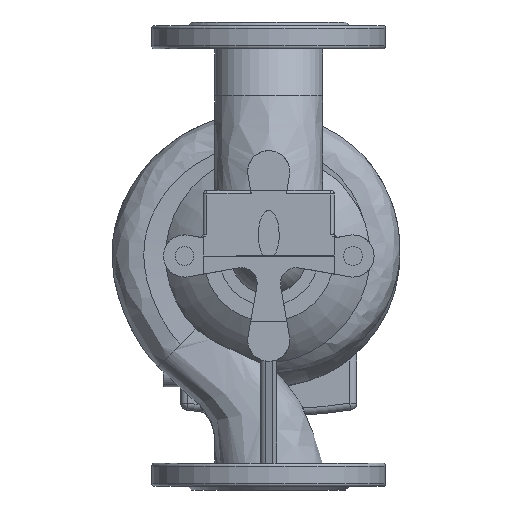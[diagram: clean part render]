
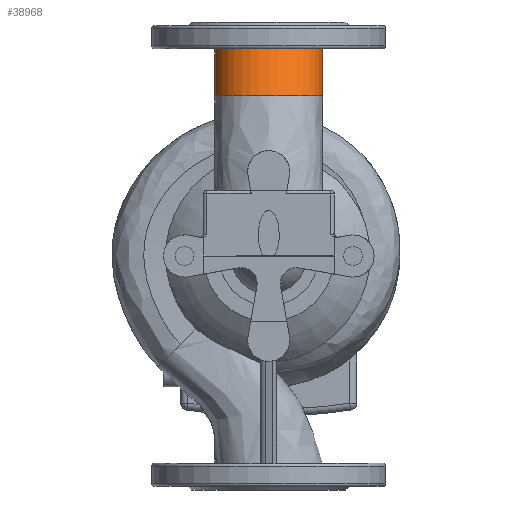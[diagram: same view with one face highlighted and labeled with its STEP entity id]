
A CAD part, front view. The second image highlights one B-rep face of the part: STEP entity #38968.
In plain terms, the highlighted free-form (B-spline) face has degree [3, 1] with [4, 2] control points.
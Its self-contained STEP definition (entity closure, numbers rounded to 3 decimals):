
#54 = VERTEX_POINT ( 'NONE', #26694 ) ;
#302 = B_SPLINE_CURVE_WITH_KNOTS ( 'NONE', 1,
 ( #29298, #13112 ),
 .UNSPECIFIED., .F., .F.,
 ( 2, 2 ),
 ( 0., 1. ),
 .UNSPECIFIED. ) ;
#1317 = CARTESIAN_POINT ( 'NONE',  ( -46., -23.131, 136.935 ) ) ;
#5238 = DIRECTION ( 'NONE',  ( 0., 0., -1. ) ) ;
#7296 = CIRCLE ( 'NONE', #27459, 46. ) ;
#7633 = CARTESIAN_POINT ( 'NONE',  ( 46., -92., 177. ) ) ;
#7777 = CARTESIAN_POINT ( 'NONE',  ( 0., -23.131, 136.935 ) ) ;
#7970 = ORIENTED_EDGE ( 'NONE', *, *, #28614, .F. ) ;
#8060 = CARTESIAN_POINT ( 'NONE',  ( -46., -115.131, 136.935 ) ) ;
#9936 = AXIS2_PLACEMENT_3D ( 'NONE', #21725, #34531, #18181 ) ;
#11364 = DIRECTION ( 'NONE',  ( -1., 0., 0. ) ) ;
#11433 = CARTESIAN_POINT ( 'NONE',  ( 46., 0., 177. ) ) ;
#13112 = CARTESIAN_POINT ( 'NONE',  ( -46., 0., 177. ) ) ;
#13747 = ORIENTED_EDGE ( 'NONE', *, *, #38429, .T. ) ;
#15771 = VERTEX_POINT ( 'NONE', #18589 ) ;
#17363 = EDGE_LOOP ( 'NONE', ( #7970, #13747, #24912, #34760 ) ) ;
#17867 = EDGE_CURVE ( 'NONE', #38371, #54, #302, .T. ) ;
#18181 = DIRECTION ( 'NONE',  ( -1., 0., 0. ) ) ;
#18273 = CARTESIAN_POINT ( 'NONE',  ( -46., -23.131, 136.935 ) ) ;
#18589 = CARTESIAN_POINT ( 'NONE',  ( 46., -23.131, 136.935 ) ) ;
#20294 = FACE_OUTER_BOUND ( 'NONE', #17363, .T. ) ;
#21619 = CARTESIAN_POINT ( 'NONE',  ( 46., 0., 177. ) ) ;
#21725 = CARTESIAN_POINT ( 'NONE',  ( 0., 0., 177. ) ) ;
#24912 = ORIENTED_EDGE ( 'NONE', *, *, #26047, .T. ) ;
#26047 = EDGE_CURVE ( 'NONE', #39657, #54, #30098, .T. ) ;
#26694 = CARTESIAN_POINT ( 'NONE',  ( -46., 0., 177. ) ) ;
#27459 = AXIS2_PLACEMENT_3D ( 'NONE', #7777, #5238, #11364 ) ;
#28500 = CARTESIAN_POINT ( 'NONE',  ( 46., 0., 177. ) ) ;
#28614 = EDGE_CURVE ( 'NONE', #15771, #38371, #7296, .T. ) ;
#28873 =( BOUNDED_SURFACE ( )  B_SPLINE_SURFACE ( 3, 1, ( 
 ( #37068, #11433 ),
 ( #29736, #7633 ),
 ( #8060, #30563 ),
 ( #1317, #40221 ) ),
 .UNSPECIFIED., .F., .F., .F. ) 
 B_SPLINE_SURFACE_WITH_KNOTS ( ( 4, 4 ),
 ( 2, 2 ),
 ( 0.5, 1. ),
 ( 0., 1. ),
 .UNSPECIFIED. ) 
 GEOMETRIC_REPRESENTATION_ITEM ( )  RATIONAL_B_SPLINE_SURFACE ( (
 ( 1., 1.),
 ( 0.333, 0.333),
 ( 0.333, 0.333),
 ( 1., 1.) ) ) 
 REPRESENTATION_ITEM ( '' )  SURFACE ( )  );
#29298 = CARTESIAN_POINT ( 'NONE',  ( -46., -23.131, 136.935 ) ) ;
#29736 = CARTESIAN_POINT ( 'NONE',  ( 46., -115.131, 136.935 ) ) ;
#30098 = CIRCLE ( 'NONE', #9936, 46. ) ;
#30563 = CARTESIAN_POINT ( 'NONE',  ( -46., -92., 177. ) ) ;
#34531 = DIRECTION ( 'NONE',  ( 0., 0., -1. ) ) ;
#34760 = ORIENTED_EDGE ( 'NONE', *, *, #17867, .F. ) ;
#34838 = CARTESIAN_POINT ( 'NONE',  ( 46., -23.131, 136.935 ) ) ;
#37068 = CARTESIAN_POINT ( 'NONE',  ( 46., -23.131, 136.935 ) ) ;
#38371 = VERTEX_POINT ( 'NONE', #18273 ) ;
#38429 = EDGE_CURVE ( 'NONE', #15771, #39657, #41087, .T. ) ;
#38968 = ADVANCED_FACE ( 'NONE', ( #20294 ), #28873, .F. ) ;
#39657 = VERTEX_POINT ( 'NONE', #28500 ) ;
#40221 = CARTESIAN_POINT ( 'NONE',  ( -46., 0., 177. ) ) ;
#41087 = B_SPLINE_CURVE_WITH_KNOTS ( 'NONE', 1,
 ( #34838, #21619 ),
 .UNSPECIFIED., .F., .F.,
 ( 2, 2 ),
 ( 0., 1. ),
 .UNSPECIFIED. ) ;
